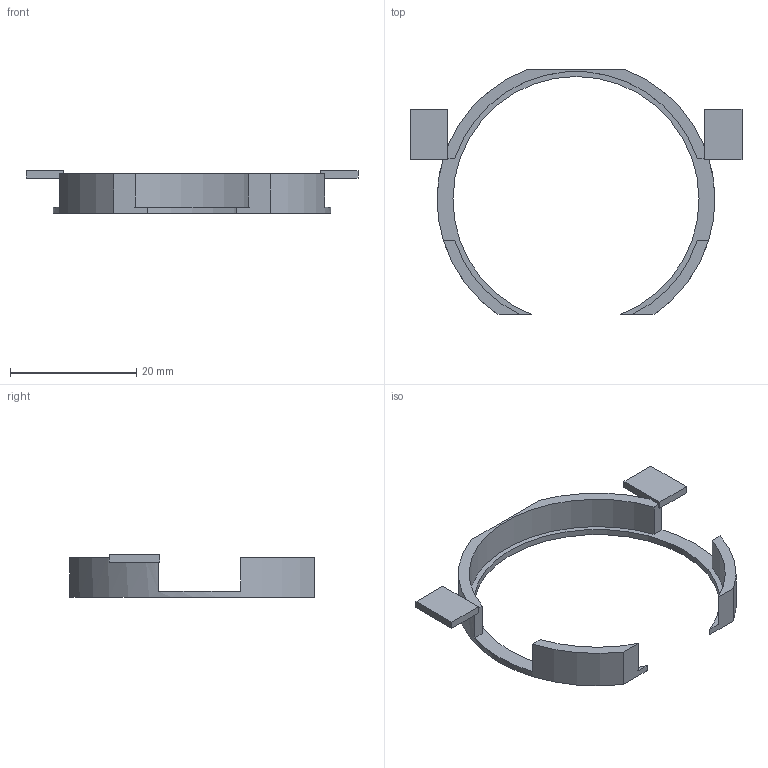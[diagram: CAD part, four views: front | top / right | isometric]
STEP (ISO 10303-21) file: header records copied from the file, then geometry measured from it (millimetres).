
FILE_DESCRIPTION(('Open CASCADE Model'),'2;1');
FILE_NAME('Open CASCADE Shape Model','2026-09-04T14:05:01',('Author'),( 'Open CASCADE'),'Open CASCADE STEP processor 7.7','Open CASCADE 7.7' ,'Unknown');
FILE_SCHEMA(('AUTOMOTIVE_DESIGN { 1 0 10303 214 1 1 1 1 }'));
Length unit declared in the file: millimetre
Products named in the file (1): Open CASCADE STEP translator 7.7 7
Bounding box: 52.6 x 38.8 x 6.8 mm (x, y, z)
Volume: 1053.1 mm3; surface area: 1962.2 mm2
Topology: 1 solids, 1 shells, 30 faces, 84 edges, 56 vertices
Faces by surface type: plane 24, cylinder 6
Entity records: 2041 total; most frequent: CARTESIAN_POINT 465, DIRECTION 261, ORIENTED_EDGE 168, PCURVE 168, DEFINITIONAL_REPRESENTATION 168, LINE 156, VECTOR 156, EDGE_CURVE 84
